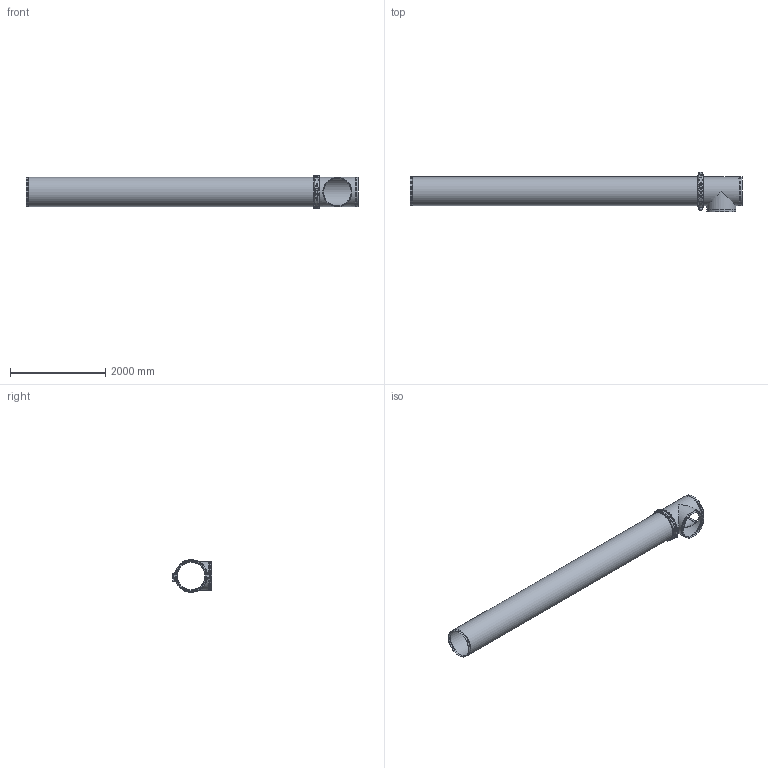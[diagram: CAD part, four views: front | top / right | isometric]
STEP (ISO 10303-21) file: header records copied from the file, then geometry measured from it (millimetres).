
FILE_DESCRIPTION(/* description */ ('VIC AGS LONG RUN FITTING No WR22 (AGS)','CAx-IF Rec.Pracs.---Representation and Presentation of Product Manufacturing Information (PMI)---4.0---2014-10-13'),/* implementation_level */ '2;1');
FILE_NAME(/* name */ 'C:\Users\kkamble\AppData\Roaming\Autodesk\ApplicationPlugins\Back Up\Victaulic_AGS_Long Run Fittings_No WR22 (AGS)\Victaulic_AGS_Long Run Fittings_No WR22 (AGS)_24 (600).stp',/* time_stamp */ '2020-10-07T02:49:47+05:00',/* author */ ('kkamble'),/* organization */ ('Victaulic'),/* preprocessor_version */ 'ST-DEVELOPER v17.2',/* originating_system */ 'Autodesk Inventor 2019',/* authorisation */ '');
FILE_SCHEMA (('AP242_MANAGED_MODEL_BASED_3D_ENGINEERING_MIM_LF { 1 0 10303 442 1 1 4 }'));
Length unit declared in the file: inch
Products named in the file (4): WR22-24.0; WR22-24.0_1; W77-24.0; W20-24.0
Assembly tree (3 placements, depth 2):
  WR22-24.0
    WR22-24.0_1
    W77-24.0
    W20-24.0
Bounding box: 6967.47 x 828.67 x 682.72 mm (x, y, z)
Volume: 134588781.5 mm3; surface area: 27331363.1 mm2
Topology: 3 solids, 5 shells, 308 faces, 917 edges, 633 vertices
Faces by surface type: cylinder 129, plane 108, torus 56, cone 13, sphere 2
Full cylindrical faces by diameter (mm): 28.575 x4, 47.625 x2, 577.85 x3, 584.2 x1, 590.55 x6, 596.9 x5, 609.6 x10
Entity records: 13222 total; most frequent: CARTESIAN_POINT 4361, ORIENTED_EDGE 1834, DIRECTION 1764, EDGE_CURVE 917, AXIS2_PLACEMENT_3D 724, VERTEX_POINT 633, CIRCLE 399, EDGE_LOOP 334
